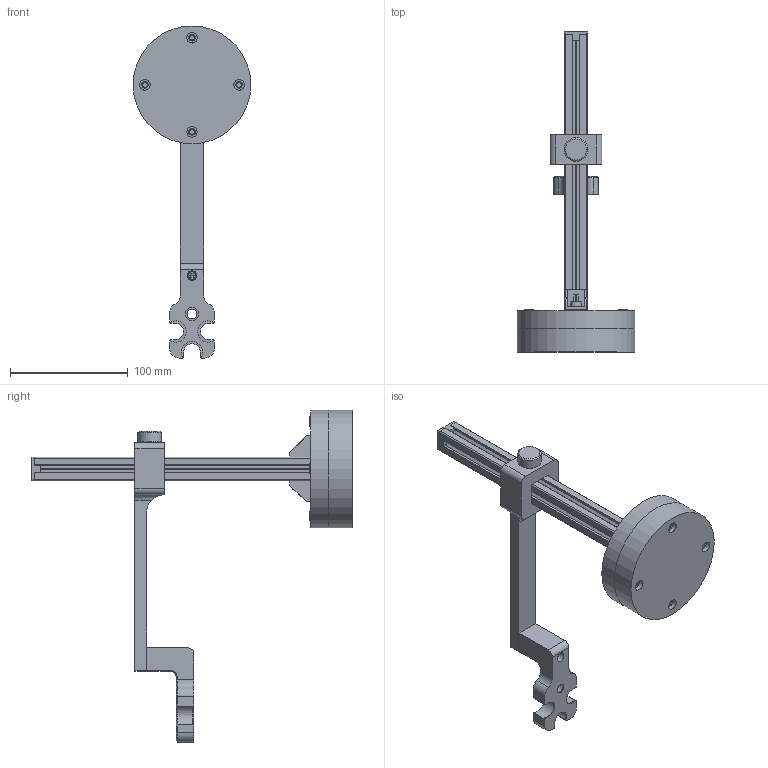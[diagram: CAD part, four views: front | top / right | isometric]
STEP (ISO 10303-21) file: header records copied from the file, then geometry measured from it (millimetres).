
FILE_DESCRIPTION(/* description */ (''),/* implementation_level */ '2;1');
FILE_NAME(/* name */ 'Assieme_chimica_01.stp',/* time_stamp */ '2025-09-17T09:45:48+02:00',/* author */ ('Ryzen5700u'),/* organization */ (''),/* preprocessor_version */ 'ST-DEVELOPER v20',/* originating_system */ 'Autodesk Inventor 2025',/* authorisation */ '');
FILE_SCHEMA (('AUTOMOTIVE_DESIGN { 1 0 10303 214 3 1 1 }'));
Length unit declared in the file: millimetre
Products named in the file (15): Assieme_chimica_01; tslot-20x20-3_MIR1; SNSD20x20; base_petg; base_ferro; braccio; tappo_2020; vite_blocco; AS 1420 - 1973 - M5 x 25; porta_sensore; AS 1420 - 1973 - M4 x 30; AS 1112 - M4  Tipo 5; AS 1420 - 1973 - M4 x 12; AS 1420 - 1973 - M5 x 12; AS 1420 - 1973 - M4 x 10
Assembly tree (18 placements, depth 2):
  Assieme_chimica_01
    tslot-20x20-3_MIR1
    SNSD20x20  x2
    base_petg
    base_ferro
    braccio
    tappo_2020
    vite_blocco
    AS 1420 - 1973 - M5 x 25  x4
    porta_sensore
    AS 1420 - 1973 - M4 x 30
    AS 1112 - M4  Tipo 5
    AS 1420 - 1973 - M4 x 12
    AS 1420 - 1973 - M5 x 12
    AS 1420 - 1973 - M4 x 10
Bounding box: 100 x 272 x 282 mm (x, y, z)
Volume: 423935 mm3; surface area: 130764.3 mm2
Topology: 18 solids, 18 shells, 796 faces, 2088 edges, 1374 vertices
Faces by surface type: plane 526, cylinder 163, bspline 46, cone 45, torus 16
Full cylindrical faces by diameter (mm): 3.242 x1, 4 x3, 4.2 x1, 4.5 x4, 5 x5, 5.5 x10, 7 x3, 8 x2, 8.5 x5, 9 x8, 11 x1, 20 x1, 100 x2
Entity records: 20316 total; most frequent: CARTESIAN_POINT 4178, ORIENTED_EDGE 3308, DIRECTION 3056, EDGE_CURVE 1654, LINE 1162, VECTOR 1162, VERTEX_POINT 1092, AXIS2_PLACEMENT_3D 947
